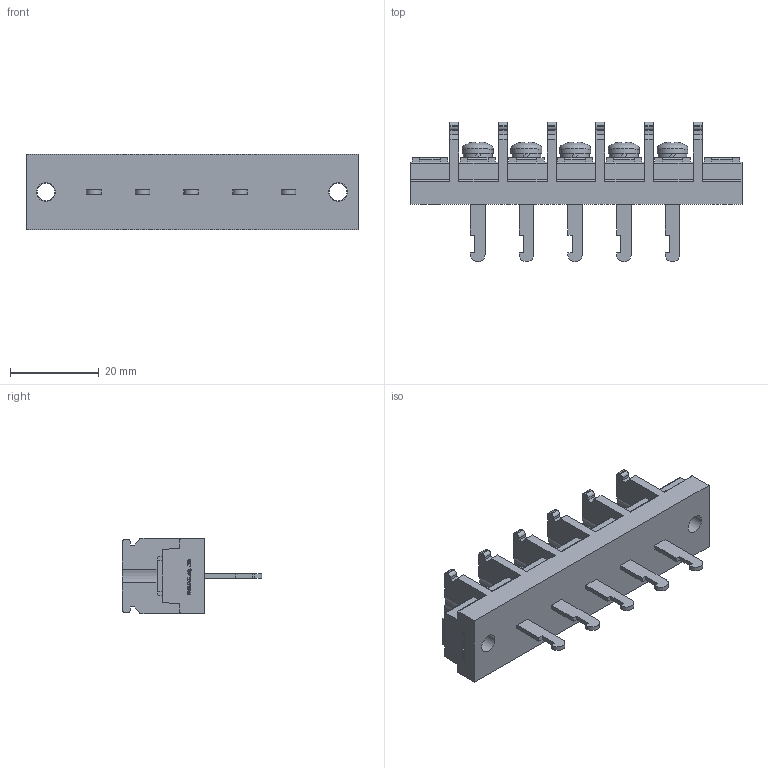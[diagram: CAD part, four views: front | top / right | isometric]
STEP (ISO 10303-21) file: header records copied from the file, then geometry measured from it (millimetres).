
FILE_DESCRIPTION(/* description */ ('Alibre Inc.'),/* implementation_level */ '2;1');
FILE_NAME(/* name */ 'export0',/* time_stamp */ '2015-10-19T19:58:27+09:00',/* author */ (''),/* organization */ (''),/* preprocessor_version */ 'ST-DEVELOPER v14',/* originating_system */ 'Alibre',/* authorisation */ '');
FILE_SCHEMA (('CONFIG_CONTROL_DESIGN'));
Length unit declared in the file: centimetre
Products named in the file (1): ID_1
Bounding box: 75 x 31.5 x 17 mm (x, y, z)
Volume: 13469.5 mm3; surface area: 8006 mm2
Topology: 1 solids, 1 shells, 839 faces, 2321 edges, 1543 vertices
Faces by surface type: plane 598, bspline 104, cylinder 102, cone 20, torus 10, sphere 5
Full cylindrical faces by diameter (mm): 4 x7, 4.2 x2, 6.5 x5, 7 x5
Entity records: 25890 total; most frequent: CARTESIAN_POINT 5706, ORIENTED_EDGE 4560, DIRECTION 3219, EDGE_CURVE 2280, VECTOR 1662, LINE 1662, VERTEX_POINT 1526, AXIS2_PLACEMENT_3D 1070
